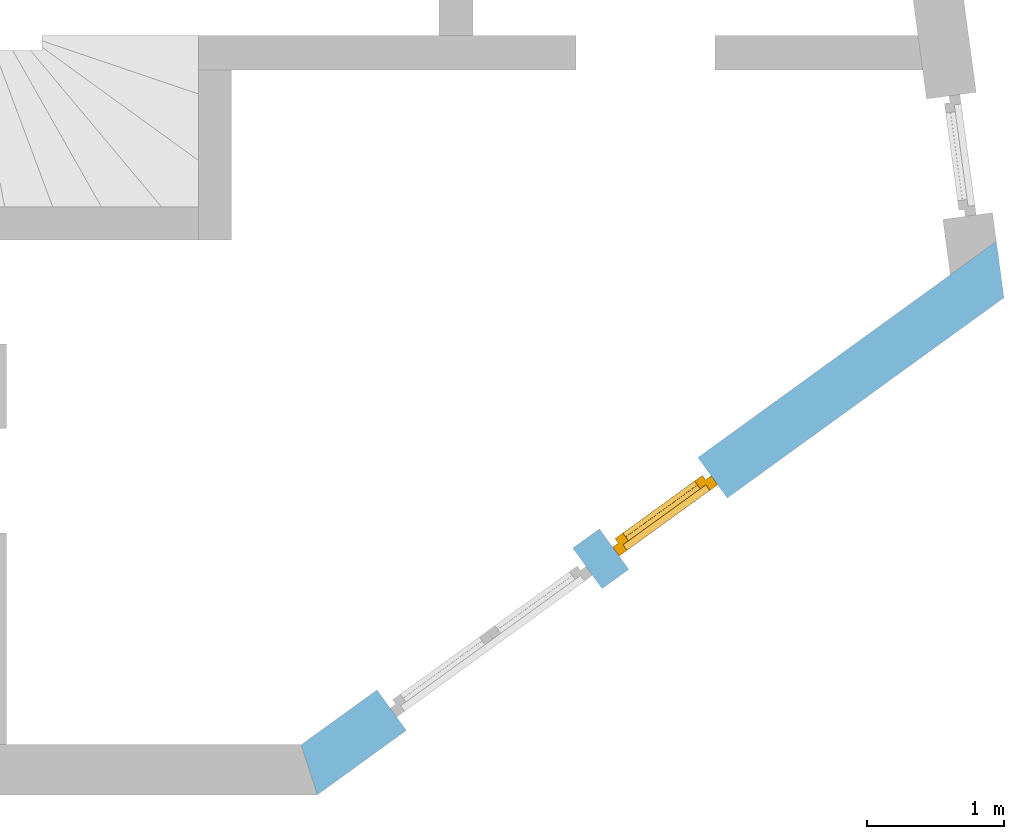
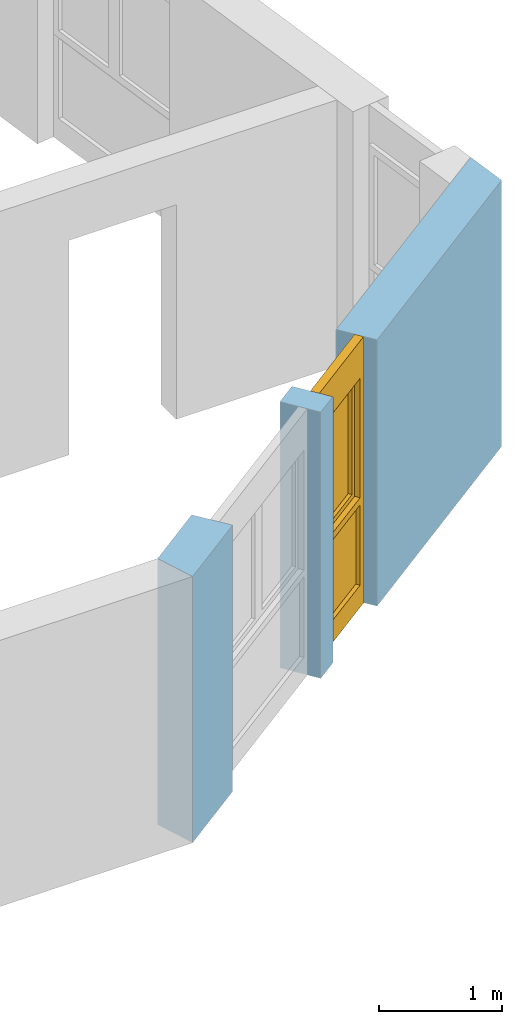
# One storey, part 38 of 42: 1 window, 2 openings, plus 1 element that does not belong to this part.
"""IFC2X3 building model written with IfcOpenShell, lengths in millimetres."""

from ifc_helpers import new_model, entity, si_unit, converted_unit, frame, frame_2d, origin, origin_with_axes, place, context, subcontext, project, spatial, polyline, rectangle, outline, extrude, faceted_brep, material, layer, layer_set, layer_usage, type_object, element, fill, save


model = new_model("IFC2X3")

# Units and contexts
model_context = context("Model", 3, precision=1e-05, world=origin())
body_context = subcontext(model_context, "Body", "Model", "MODEL_VIEW")
ifc_project = project(units=[si_unit("LENGTHUNIT", "METRE", prefix="MILLI"), converted_unit("PLANEANGLEUNIT", "DEGREE", entity("IfcPlaneAngleMeasure", 0.0174532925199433), si_unit("PLANEANGLEUNIT", "RADIAN"), dimensions=[0, 0, 0, 0, 0, 0, 0]), si_unit("AREAUNIT", "SQUARE_METRE"), si_unit("VOLUMEUNIT", "CUBIC_METRE")], contexts=[model_context])

# Building, storey
building_placement = place(None, origin())
building = spatial("IfcBuilding", under=ifc_project, at=building_placement, Name="Gebäude", CompositionType="ELEMENT")
storey_placement = place(building_placement, frame((0.0, 0.0, 2730.0), z_axis=(0.0, 0.0, 1.0), x_axis=(1.0, 0.0, 0.0)))
storey = spatial("IfcBuildingStorey", under=building, at=storey_placement, Name="OG.- Grundriss", CompositionType="ELEMENT", Elevation=2730.0)

# Wall, openings, window
ifc_material_1 = material(Name="Poroton")
ifc_layer = layer(ifc_material_1, 364.9999999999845)
ifc_layer_set = layer_set([ifc_layer])
ifc_layer_usage = layer_usage(ifc_layer_set, "AXIS2", "POSITIVE", 0.0)
wall_placement = place(storey_placement, frame((180502.7928055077, 125274.8877315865, 0.0), z_axis=(0.0, 0.0, 1.0), x_axis=(0.8099951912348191, 0.5864365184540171, 0.0)))
wall = element("IfcWallStandardCase", 1, at=wall_placement, inside=storey, material=ifc_layer_usage, Name="<Unnamed Element>", context=body_context, shape_type="SweptSolid", body=[
    extrude(outline(polyline([(0.0, 0.0), (6172.876154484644, 0.0), (6368.596706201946, 364.9999999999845), (118.2596121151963, 365.0000000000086), (0.0, 0.0)])), origin_with_axes(), (0.0, 0.0, 1.0), 2650.0),
])
opening_1_placement = place(wall_placement, frame((2800.000000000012, 3.205968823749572e-11, 0.0), z_axis=(0.0, 1.0, 0.0), x_axis=(0.0, 0.0, 1.0)))
opening_1 = element("IfcOpeningElement", 2, at=opening_1_placement, cuts=wall, Name="Fensteröffnung", ObjectType="Opening", context=body_context, shape_type="SweptSolid", body=[
    extrude(rectangle(XDim=2650.0, YDim=885.0, at=frame_2d((1325.0, 442.5), x_axis=(1.0, 0.0))), origin_with_axes(), (0.0, 0.0, 1.0), 365.0),
])
opening_2_placement = place(wall_placement, frame((799.9999999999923, 3.126388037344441e-12, 0.0), z_axis=(0.0, 1.0, 0.0), x_axis=(0.0, 0.0, 1.0)))
element("IfcOpeningElement", 3, at=opening_2_placement, cuts=wall, Name="Fensteröffnung", ObjectType="Opening", context=body_context, shape_type="SweptSolid", body=[
    extrude(rectangle(XDim=2650.0, YDim=1760.000000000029, at=frame_2d((1325.0, 880.0000000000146), x_axis=(1.0, 0.0))), origin_with_axes(), (0.0, 0.0, 1.0), 365.0),
])
ifc_material_2 = material()
window_style = type_object("IfcWindowStyle", Name="Fenster", ConstructionType="NOTDEFINED", OperationType="USERDEFINED", ParameterTakesPrecedence=False, Sizeable=False)
window_placement = place(opening_1_placement, frame((0.0, 0.0, 0.0), z_axis=(1.0, 0.0, 0.0), x_axis=(0.0, 1.0, 0.0)))
window = element("IfcWindow", 4, at=window_placement, inside=storey, type_object=window_style, material=ifc_material_2, Name="Fenster", OverallHeight=2650.0, OverallWidth=885.0, context=body_context, shape_type="Brep", body=[
    faceted_brep([(-3.087130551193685e-11, 200.0000000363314, 2650.0), (-3.087130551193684e-11, 200.0000000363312, -2.449293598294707e-15), (69.99999999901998, 200.0000000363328, -2.449293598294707e-15), (69.99999999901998, 200.000000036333, 2650.0), (-2.91038304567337e-11, 120.0000000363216, 2.449293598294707e-15), (-2.910383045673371e-11, 120.0000000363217, 2650.0), (69.99999999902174, 120.0000000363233, 2650.0), (69.99999999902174, 120.0000000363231, 2.449293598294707e-15), (-3.087130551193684e-11, 200.0000000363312, -2.449293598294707e-15), (-3.087130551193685e-11, 200.0000000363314, 2650.0), (-2.910383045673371e-11, 120.0000000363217, 2650.0), (-2.91038304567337e-11, 120.0000000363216, 2.449293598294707e-15), (69.99999999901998, 200.0000000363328, -2.449293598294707e-15), (-3.087130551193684e-11, 200.0000000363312, -2.449293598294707e-15), (-2.91038304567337e-11, 120.0000000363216, 2.449293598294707e-15), (69.99999999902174, 120.0000000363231, 2.449293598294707e-15), (69.99999999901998, 200.000000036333, 2650.0), (69.99999999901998, 200.0000000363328, -2.449293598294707e-15), (69.99999999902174, 120.0000000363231, 2.449293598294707e-15), (69.99999999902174, 120.0000000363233, 2650.0), (-3.087130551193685e-11, 200.0000000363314, 2650.0), (69.99999999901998, 200.000000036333, 2650.0), (69.99999999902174, 120.0000000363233, 2650.0), (-2.910383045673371e-11, 120.0000000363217, 2650.0)], [[[0, 1, 2, 3]], [[4, 5, 6, 7]], [[8, 9, 10, 11]], [[12, 13, 14, 15]], [[16, 17, 18, 19]], [[20, 21, 22, 23]]], orient=[[False], [False], [False], [False], [False], [False]]),
    faceted_brep([(815.000000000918, 200.0000000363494, 2650.0), (815.000000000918, 200.0000000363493, -2.449293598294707e-15), (884.9999999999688, 200.0000000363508, -2.449293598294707e-15), (884.9999999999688, 200.000000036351, 2650.0), (815.0000000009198, 120.0000000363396, 2.449293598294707e-15), (815.0000000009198, 120.0000000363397, 2650.0), (884.9999999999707, 120.0000000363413, 2650.0), (884.9999999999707, 120.0000000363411, 2.449293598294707e-15), (815.000000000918, 200.0000000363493, -2.449293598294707e-15), (815.000000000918, 200.0000000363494, 2650.0), (815.0000000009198, 120.0000000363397, 2650.0), (815.0000000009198, 120.0000000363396, 2.449293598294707e-15), (884.9999999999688, 200.0000000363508, -2.449293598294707e-15), (815.000000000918, 200.0000000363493, -2.449293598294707e-15), (815.0000000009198, 120.0000000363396, 2.449293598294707e-15), (884.9999999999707, 120.0000000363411, 2.449293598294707e-15), (884.9999999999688, 200.000000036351, 2650.0), (884.9999999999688, 200.0000000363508, -2.449293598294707e-15), (884.9999999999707, 120.0000000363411, 2.449293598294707e-15), (884.9999999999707, 120.0000000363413, 2650.0), (815.000000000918, 200.0000000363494, 2650.0), (884.9999999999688, 200.000000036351, 2650.0), (884.9999999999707, 120.0000000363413, 2650.0), (815.0000000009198, 120.0000000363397, 2650.0)], [[[0, 1, 2, 3]], [[4, 5, 6, 7]], [[8, 9, 10, 11]], [[12, 13, 14, 15]], [[16, 17, 18, 19]], [[20, 21, 22, 23]]], orient=[[False], [False], [False], [False], [False], [False]]),
    faceted_brep([(69.99999999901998, 200.0000000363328, 220.0), (69.99999999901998, 200.0000000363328, -2.449293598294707e-15), (815.000000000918, 200.0000000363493, -2.449293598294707e-15), (815.000000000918, 200.0000000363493, 220.0), (69.99999999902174, 120.0000000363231, 2.449293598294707e-15), (69.99999999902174, 120.0000000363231, 220.0), (815.0000000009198, 120.0000000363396, 220.0), (815.0000000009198, 120.0000000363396, 2.449293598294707e-15), (69.99999999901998, 200.0000000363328, -2.449293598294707e-15), (69.99999999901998, 200.0000000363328, 220.0), (69.99999999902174, 120.0000000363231, 220.0), (69.99999999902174, 120.0000000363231, 2.449293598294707e-15), (815.000000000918, 200.0000000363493, -2.449293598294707e-15), (69.99999999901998, 200.0000000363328, -2.449293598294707e-15), (69.99999999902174, 120.0000000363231, 2.449293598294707e-15), (815.0000000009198, 120.0000000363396, 2.449293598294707e-15), (815.000000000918, 200.0000000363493, 220.0), (815.000000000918, 200.0000000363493, -2.449293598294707e-15), (815.0000000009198, 120.0000000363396, 2.449293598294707e-15), (815.0000000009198, 120.0000000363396, 220.0), (69.99999999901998, 200.0000000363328, 220.0), (815.000000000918, 200.0000000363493, 220.0), (815.0000000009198, 120.0000000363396, 220.0), (69.99999999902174, 120.0000000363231, 220.0)], [[[0, 1, 2, 3]], [[4, 5, 6, 7]], [[8, 9, 10, 11]], [[12, 13, 14, 15]], [[16, 17, 18, 19]], [[20, 21, 22, 23]]], orient=[[False], [False], [False], [False], [False], [False]]),
    faceted_brep([(69.99999999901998, 200.000000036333, 2650.0), (69.99999999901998, 200.000000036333, 2280.0), (815.000000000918, 200.0000000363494, 2280.0), (815.000000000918, 200.0000000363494, 2650.0), (69.99999999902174, 120.0000000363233, 2280.0), (69.99999999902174, 120.0000000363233, 2650.0), (815.0000000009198, 120.0000000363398, 2650.0), (815.0000000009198, 120.0000000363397, 2280.0), (69.99999999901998, 200.000000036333, 2280.0), (69.99999999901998, 200.000000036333, 2650.0), (69.99999999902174, 120.0000000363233, 2650.0), (69.99999999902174, 120.0000000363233, 2280.0), (815.000000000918, 200.0000000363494, 2280.0), (69.99999999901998, 200.000000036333, 2280.0), (69.99999999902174, 120.0000000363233, 2280.0), (815.0000000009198, 120.0000000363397, 2280.0), (815.000000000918, 200.0000000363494, 2650.0), (815.000000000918, 200.0000000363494, 2280.0), (815.0000000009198, 120.0000000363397, 2280.0), (815.0000000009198, 120.0000000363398, 2650.0), (69.99999999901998, 200.000000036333, 2650.0), (815.000000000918, 200.0000000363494, 2650.0), (815.0000000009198, 120.0000000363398, 2650.0), (69.99999999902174, 120.0000000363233, 2650.0)], [[[0, 1, 2, 3]], [[4, 5, 6, 7]], [[8, 9, 10, 11]], [[12, 13, 14, 15]], [[16, 17, 18, 19]], [[20, 21, 22, 23]]], orient=[[False], [False], [False], [False], [False], [False]]),
    faceted_brep([(69.99999999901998, 200.0000000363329, 1090.0), (69.99999999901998, 200.0000000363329, 1020.0), (815.000000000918, 200.0000000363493, 1020.0), (815.000000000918, 200.0000000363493, 1090.0), (69.99999999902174, 120.0000000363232, 1020.0), (69.99999999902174, 120.0000000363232, 1090.0), (815.0000000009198, 120.0000000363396, 1090.0), (815.0000000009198, 120.0000000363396, 1020.0), (69.99999999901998, 200.0000000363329, 1020.0), (69.99999999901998, 200.0000000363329, 1090.0), (69.99999999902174, 120.0000000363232, 1090.0), (69.99999999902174, 120.0000000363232, 1020.0), (815.000000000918, 200.0000000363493, 1020.0), (69.99999999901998, 200.0000000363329, 1020.0), (69.99999999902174, 120.0000000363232, 1020.0), (815.0000000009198, 120.0000000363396, 1020.0), (815.000000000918, 200.0000000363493, 1090.0), (815.000000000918, 200.0000000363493, 1020.0), (815.0000000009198, 120.0000000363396, 1020.0), (815.0000000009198, 120.0000000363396, 1090.0), (69.99999999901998, 200.0000000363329, 1090.0), (815.000000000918, 200.0000000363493, 1090.0), (815.0000000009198, 120.0000000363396, 1090.0), (69.99999999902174, 120.0000000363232, 1090.0)], [[[0, 1, 2, 3]], [[4, 5, 6, 7]], [[8, 9, 10, 11]], [[12, 13, 14, 15]], [[16, 17, 18, 19]], [[20, 21, 22, 23]]], orient=[[False], [False], [False], [False], [False], [False]]),
    faceted_brep([(69.99999999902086, 160.000000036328, 220.0), (815.0000000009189, 160.0000000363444, 220.0), (815.0000000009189, 160.0000000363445, 1020.0), (69.99999999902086, 160.000000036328, 1020.0), (69.99999999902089, 159.000000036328, 220.0), (69.99999999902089, 159.000000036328, 1020.0), (815.0000000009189, 159.0000000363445, 1020.0), (815.0000000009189, 159.0000000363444, 220.0), (69.99999999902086, 160.000000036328, 220.0), (69.99999999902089, 159.000000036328, 220.0), (815.0000000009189, 159.0000000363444, 220.0), (815.0000000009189, 160.0000000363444, 220.0), (815.0000000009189, 160.0000000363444, 220.0), (815.0000000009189, 159.0000000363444, 220.0), (815.0000000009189, 159.0000000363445, 1020.0), (815.0000000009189, 160.0000000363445, 1020.0), (815.0000000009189, 160.0000000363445, 1020.0), (815.0000000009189, 159.0000000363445, 1020.0), (69.99999999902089, 159.000000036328, 1020.0), (69.99999999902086, 160.000000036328, 1020.0), (69.99999999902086, 160.000000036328, 1020.0), (69.99999999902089, 159.000000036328, 1020.0), (69.99999999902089, 159.000000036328, 220.0), (69.99999999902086, 160.000000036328, 220.0)], [[[0, 1, 2, 3]], [[4, 5, 6, 7]], [[8, 9, 10, 11]], [[12, 13, 14, 15]], [[16, 17, 18, 19]], [[20, 21, 22, 23]]], orient=[[False], [False], [False], [False], [False], [False]]),
    faceted_brep([(49.99999999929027, 240.0000000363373, 2300.0), (49.99999999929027, 240.0000000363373, 1070.0), (119.9999999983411, 240.0000000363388, 1070.0), (119.9999999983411, 240.0000000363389, 2300.0), (49.99999999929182, 170.0000000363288, 1070.0), (49.99999999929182, 170.0000000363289, 2300.0), (119.9999999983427, 170.0000000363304, 2300.0), (119.9999999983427, 170.0000000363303, 1070.0), (49.99999999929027, 240.0000000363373, 1070.0), (49.99999999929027, 240.0000000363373, 2300.0), (49.99999999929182, 170.0000000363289, 2300.0), (49.99999999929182, 170.0000000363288, 1070.0), (119.9999999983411, 240.0000000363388, 1070.0), (49.99999999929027, 240.0000000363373, 1070.0), (49.99999999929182, 170.0000000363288, 1070.0), (119.9999999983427, 170.0000000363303, 1070.0), (119.9999999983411, 240.0000000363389, 2300.0), (119.9999999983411, 240.0000000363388, 1070.0), (119.9999999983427, 170.0000000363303, 1070.0), (119.9999999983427, 170.0000000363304, 2300.0), (49.99999999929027, 240.0000000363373, 2300.0), (119.9999999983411, 240.0000000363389, 2300.0), (119.9999999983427, 170.0000000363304, 2300.0), (49.99999999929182, 170.0000000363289, 2300.0)], [[[0, 1, 2, 3]], [[4, 5, 6, 7]], [[8, 9, 10, 11]], [[12, 13, 14, 15]], [[16, 17, 18, 19]], [[20, 21, 22, 23]]], orient=[[False], [False], [False], [False], [False], [False]]),
    faceted_brep([(765.0000000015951, 240.0000000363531, 2300.0), (765.0000000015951, 240.0000000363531, 1070.0), (835.000000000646, 240.0000000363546, 1070.0), (835.000000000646, 240.0000000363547, 2300.0), (765.0000000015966, 170.0000000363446, 1070.0), (765.0000000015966, 170.0000000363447, 2300.0), (835.0000000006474, 170.0000000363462, 2300.0), (835.0000000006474, 170.0000000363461, 1070.0), (765.0000000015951, 240.0000000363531, 1070.0), (765.0000000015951, 240.0000000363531, 2300.0), (765.0000000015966, 170.0000000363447, 2300.0), (765.0000000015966, 170.0000000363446, 1070.0), (835.000000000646, 240.0000000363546, 1070.0), (765.0000000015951, 240.0000000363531, 1070.0), (765.0000000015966, 170.0000000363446, 1070.0), (835.0000000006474, 170.0000000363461, 1070.0), (835.000000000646, 240.0000000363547, 2300.0), (835.000000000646, 240.0000000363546, 1070.0), (835.0000000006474, 170.0000000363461, 1070.0), (835.0000000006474, 170.0000000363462, 2300.0), (765.0000000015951, 240.0000000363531, 2300.0), (835.000000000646, 240.0000000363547, 2300.0), (835.0000000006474, 170.0000000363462, 2300.0), (765.0000000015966, 170.0000000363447, 2300.0)], [[[0, 1, 2, 3]], [[4, 5, 6, 7]], [[8, 9, 10, 11]], [[12, 13, 14, 15]], [[16, 17, 18, 19]], [[20, 21, 22, 23]]], orient=[[False], [False], [False], [False], [False], [False]]),
    faceted_brep([(119.9999999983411, 240.0000000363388, 1140.0), (119.9999999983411, 240.0000000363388, 1070.0), (765.0000000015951, 240.0000000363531, 1070.0), (765.0000000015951, 240.0000000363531, 1140.0), (119.9999999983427, 170.0000000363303, 1070.0), (119.9999999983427, 170.0000000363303, 1140.0), (765.0000000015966, 170.0000000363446, 1140.0), (765.0000000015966, 170.0000000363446, 1070.0), (119.9999999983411, 240.0000000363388, 1070.0), (119.9999999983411, 240.0000000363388, 1140.0), (119.9999999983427, 170.0000000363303, 1140.0), (119.9999999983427, 170.0000000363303, 1070.0), (765.0000000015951, 240.0000000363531, 1070.0), (119.9999999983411, 240.0000000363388, 1070.0), (119.9999999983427, 170.0000000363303, 1070.0), (765.0000000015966, 170.0000000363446, 1070.0), (765.0000000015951, 240.0000000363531, 1140.0), (765.0000000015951, 240.0000000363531, 1070.0), (765.0000000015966, 170.0000000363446, 1070.0), (765.0000000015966, 170.0000000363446, 1140.0), (119.9999999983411, 240.0000000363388, 1140.0), (765.0000000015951, 240.0000000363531, 1140.0), (765.0000000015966, 170.0000000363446, 1140.0), (119.9999999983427, 170.0000000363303, 1140.0)], [[[0, 1, 2, 3]], [[4, 5, 6, 7]], [[8, 9, 10, 11]], [[12, 13, 14, 15]], [[16, 17, 18, 19]], [[20, 21, 22, 23]]], orient=[[False], [False], [False], [False], [False], [False]]),
    faceted_brep([(119.9999999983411, 240.0000000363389, 2300.0), (119.9999999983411, 240.0000000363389, 2230.0), (765.0000000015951, 240.0000000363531, 2230.0), (765.0000000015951, 240.0000000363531, 2300.0), (119.9999999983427, 170.0000000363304, 2230.0), (119.9999999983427, 170.0000000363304, 2300.0), (765.0000000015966, 170.0000000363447, 2300.0), (765.0000000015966, 170.0000000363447, 2230.0), (119.9999999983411, 240.0000000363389, 2230.0), (119.9999999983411, 240.0000000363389, 2300.0), (119.9999999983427, 170.0000000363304, 2300.0), (119.9999999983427, 170.0000000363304, 2230.0), (765.0000000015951, 240.0000000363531, 2230.0), (119.9999999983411, 240.0000000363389, 2230.0), (119.9999999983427, 170.0000000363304, 2230.0), (765.0000000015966, 170.0000000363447, 2230.0), (765.0000000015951, 240.0000000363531, 2300.0), (765.0000000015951, 240.0000000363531, 2230.0), (765.0000000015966, 170.0000000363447, 2230.0), (765.0000000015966, 170.0000000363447, 2300.0), (119.9999999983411, 240.0000000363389, 2300.0), (765.0000000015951, 240.0000000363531, 2300.0), (765.0000000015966, 170.0000000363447, 2300.0), (119.9999999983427, 170.0000000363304, 2300.0)], [[[0, 1, 2, 3]], [[4, 5, 6, 7]], [[8, 9, 10, 11]], [[12, 13, 14, 15]], [[16, 17, 18, 19]], [[20, 21, 22, 23]]], orient=[[False], [False], [False], [False], [False], [False]]),
    faceted_brep([(119.9999999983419, 205.0000000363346, 1140.0), (765.0000000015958, 205.0000000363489, 1140.0), (765.0000000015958, 205.0000000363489, 2230.0), (119.9999999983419, 205.0000000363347, 2230.0), (119.9999999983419, 204.0000000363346, 1140.0), (119.9999999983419, 204.0000000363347, 2230.0), (765.0000000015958, 204.0000000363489, 2230.0), (765.0000000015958, 204.0000000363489, 1140.0), (119.9999999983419, 205.0000000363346, 1140.0), (119.9999999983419, 204.0000000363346, 1140.0), (765.0000000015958, 204.0000000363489, 1140.0), (765.0000000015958, 205.0000000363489, 1140.0), (765.0000000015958, 205.0000000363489, 1140.0), (765.0000000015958, 204.0000000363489, 1140.0), (765.0000000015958, 204.0000000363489, 2230.0), (765.0000000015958, 205.0000000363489, 2230.0), (765.0000000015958, 205.0000000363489, 2230.0), (765.0000000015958, 204.0000000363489, 2230.0), (119.9999999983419, 204.0000000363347, 2230.0), (119.9999999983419, 205.0000000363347, 2230.0), (119.9999999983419, 205.0000000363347, 2230.0), (119.9999999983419, 204.0000000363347, 2230.0), (119.9999999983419, 204.0000000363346, 1140.0), (119.9999999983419, 205.0000000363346, 1140.0)], [[[0, 1, 2, 3]], [[4, 5, 6, 7]], [[8, 9, 10, 11]], [[12, 13, 14, 15]], [[16, 17, 18, 19]], [[20, 21, 22, 23]]], orient=[[False], [False], [False], [False], [False], [False]]),
])
fill(opening_1, window)

save(model, "model.ifc")
